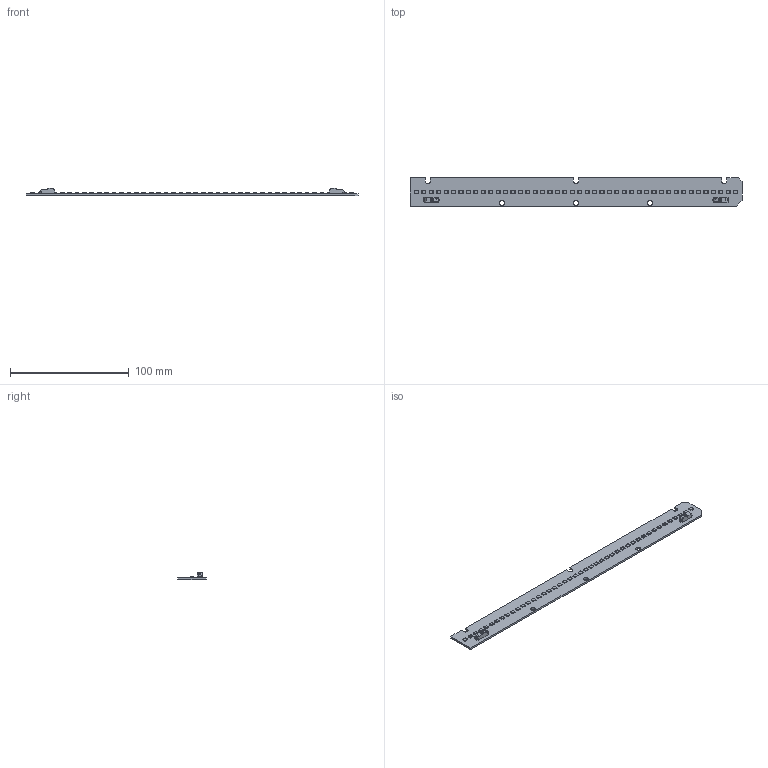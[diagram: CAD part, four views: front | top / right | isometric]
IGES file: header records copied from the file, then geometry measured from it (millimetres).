
Start section: SolidWorks IGES file using analytic representation for surfaces
Global section: file name: C:\Users\vuorinen_kari\Desktop\prj\LED_kosketussuojaus\led_module LX282.IGS; native system: SolidWorks 2014; preprocessor: SolidWorks 2014; author: vuorinen_kari; date: 171020.124822; units: millimetre
Bounding box: 280 x 24 x 5.95 mm (x, y, z)
Surface area: 16099.2 mm2 (no closed solid volume)
Topology: 0 solids, 0 shells, 2644 faces, 18752 edges, 18752 vertices
Faces by surface type: bspline 1785, revolution 859
